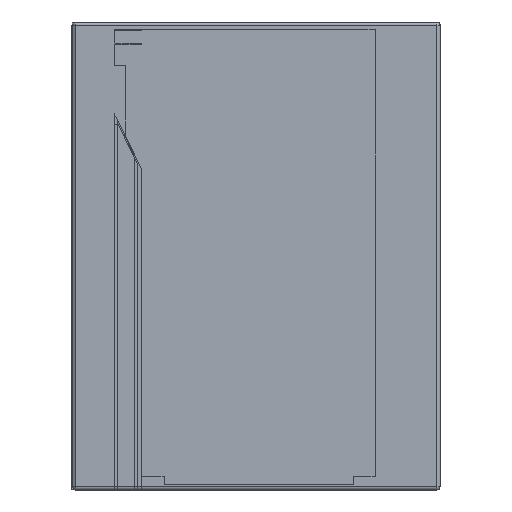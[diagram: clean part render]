
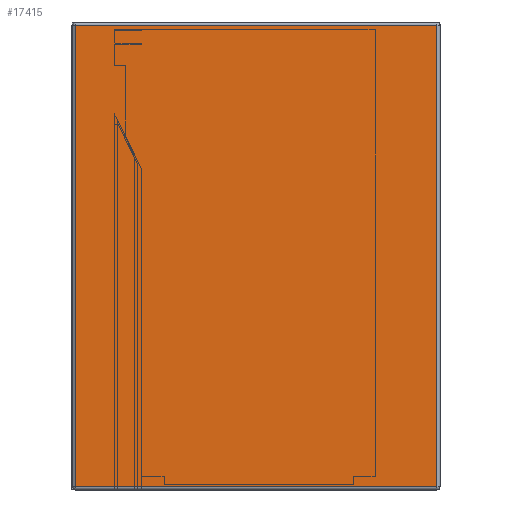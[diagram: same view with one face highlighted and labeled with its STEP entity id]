
A CAD part, front view. The second image highlights one B-rep face of the part: STEP entity #17415.
In plain terms, the highlighted planar face has unit normal (0, -1, 0) as drawn and (0, 0, 1) by its records, which use the part's own axes.
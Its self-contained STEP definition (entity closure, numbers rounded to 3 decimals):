
#16136=DIRECTION('',(0.,-1.,0.));
#16137=VECTOR('',#16136,69.);
#16138=CARTESIAN_POINT('',(27.,23.45,2.15));
#16139=LINE('',#16138,#16137);
#16175=DIRECTION('',(1.,0.,0.));
#16176=VECTOR('',#16175,54.);
#16177=CARTESIAN_POINT('',(-27.,23.45,2.15));
#16178=LINE('',#16177,#16176);
#16194=DIRECTION('',(0.,1.,0.));
#16195=VECTOR('',#16194,69.);
#16196=CARTESIAN_POINT('',(-27.,-45.55,2.15));
#16197=LINE('',#16196,#16195);
#16202=DIRECTION('',(-1.,0.,0.));
#16203=VECTOR('',#16202,54.);
#16204=CARTESIAN_POINT('',(27.,-45.55,2.15));
#16205=LINE('',#16204,#16203);
#16679=CARTESIAN_POINT('',(-27.,23.45,2.15));
#16680=CARTESIAN_POINT('',(27.,23.45,2.15));
#16681=VERTEX_POINT('',#16679);
#16682=VERTEX_POINT('',#16680);
#16695=CARTESIAN_POINT('',(27.,-45.55,2.15));
#16696=VERTEX_POINT('',#16695);
#16738=CARTESIAN_POINT('',(-27.,-45.55,2.15));
#16739=VERTEX_POINT('',#16738);
#17403=CARTESIAN_POINT('',(0.,0.,2.15));
#17404=DIRECTION('',(0.,0.,-1.));
#17405=DIRECTION('',(-1.,0.,0.));
#17406=AXIS2_PLACEMENT_3D('',#17403,#17404,#17405);
#17407=PLANE('',#17406);
#17408=ORIENTED_EDGE('',*,*,#17394,.T.);
#17409=ORIENTED_EDGE('',*,*,#17370,.T.);
#17410=ORIENTED_EDGE('',*,*,#17295,.T.);
#17412=ORIENTED_EDGE('',*,*,#17411,.T.);
#17413=EDGE_LOOP('',(#17408,#17409,#17410,#17412));
#17414=FACE_OUTER_BOUND('',#17413,.F.);
#17415=ADVANCED_FACE('',(#17414),#17407,.F.);
#17295=EDGE_CURVE('',#16682,#16696,#16139,.T.);
#17370=EDGE_CURVE('',#16681,#16682,#16178,.T.);
#17394=EDGE_CURVE('',#16739,#16681,#16197,.T.);
#17411=EDGE_CURVE('',#16696,#16739,#16205,.T.);
